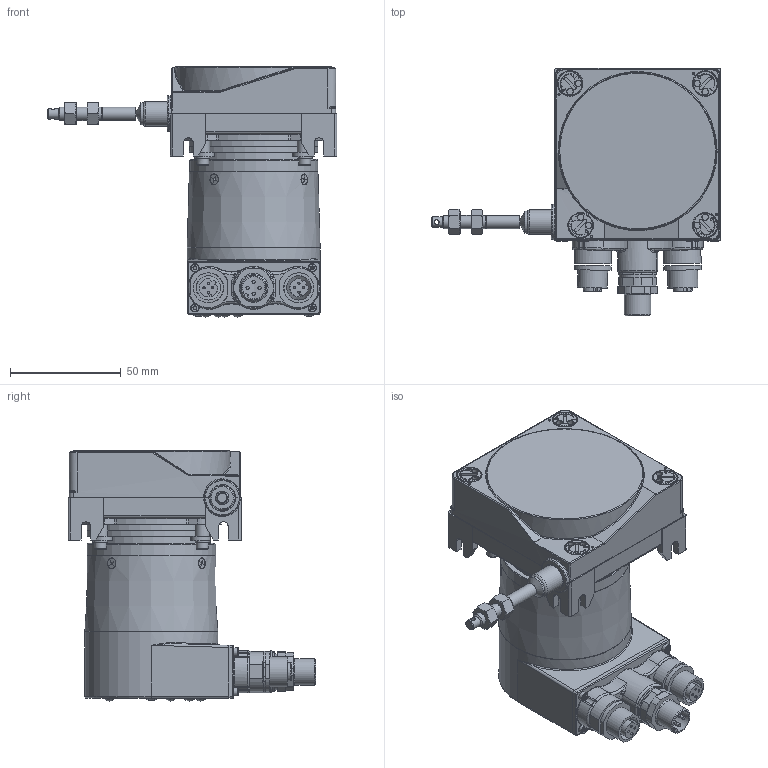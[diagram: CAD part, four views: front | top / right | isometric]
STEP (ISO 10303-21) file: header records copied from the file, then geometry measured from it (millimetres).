
FILE_DESCRIPTION (( 'STEP AP214' ), '1' );
FILE_NAME ('D8.1503.68B2.XXXX.STEP', '2014-10-24T12:40:24', ( 'HeirlerN' ), ( 'Microsoft' ), 'SwSTEP 2.0', 'SolidWorks 2013', '' );
FILE_SCHEMA (( 'AUTOMOTIVE_DESIGN' ));
Length unit declared in the file: millimetre
Products named in the file (1): D8.1503.68B2.XXXX
Bounding box: 130.6 x 111.7 x 112.85 mm (x, y, z)
Surface area: 53737.7 mm2 (no closed solid volume)
Topology: 0 solids, 61 shells, 844 faces, 2602 edges, 1751 vertices
Faces by surface type: plane 330, cylinder 253, bspline 137, cone 79, torus 31, sphere 14
Full cylindrical faces by diameter (mm): 1.05 x8, 1.5 x4, 2.1 x1, 2.8 x8, 3.8 x4, 4.7 x1, 4.9 x4, 5.1 x4, 5.2 x4, 5.5 x4, 6 x4, 6.2 x3, 6.5 x4, 8.9 x4, 10 x1, 11 x2, 11.1 x1, 11.4 x4, 12 x1, 13.5 x2, 16.5 x1, 53 x1, 58 x3, 60 x1
Entity records: 47591 total; most frequent: CARTESIAN_POINT 17408, ORIENTED_EDGE 4080, DIRECTION 3966, EDGE_CURVE 2428, VERTEX_POINT 1717, AXIS2_PLACEMENT_3D 1449, EDGE_LOOP 1092, VECTOR 1068
